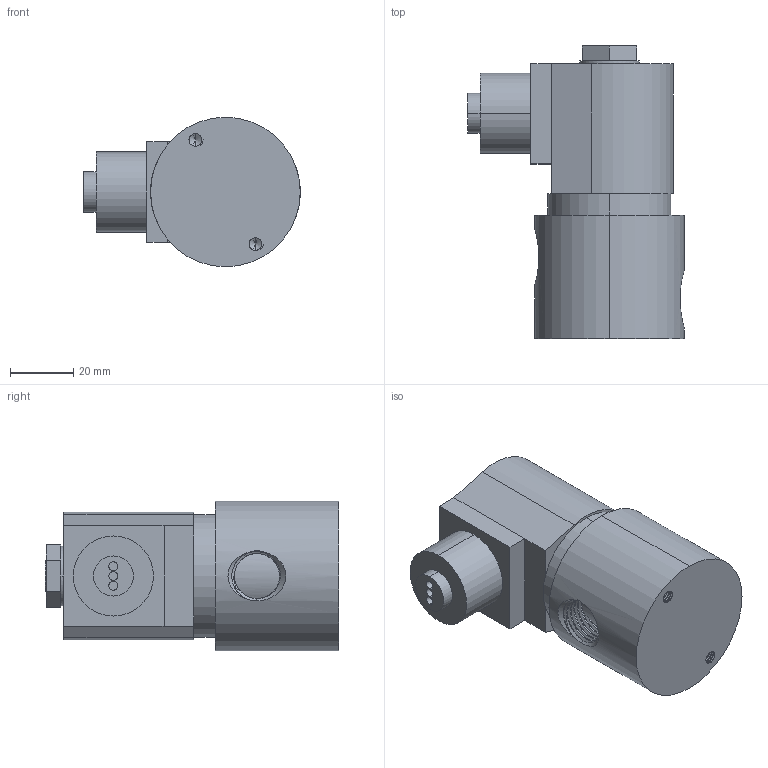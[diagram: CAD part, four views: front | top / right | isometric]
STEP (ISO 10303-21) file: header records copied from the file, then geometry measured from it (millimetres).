
FILE_DESCRIPTION (( 'STEP AP203' ), '1' );
FILE_NAME ('S401G_C.STEP', '2021-07-12T13:37:15', ( '' ), ( '' ), 'SwSTEP 2.0', 'SolidWorks 2020', '' );
FILE_SCHEMA (( 'CONFIG_CONTROL_DESIGN' ));
Length unit declared in the file: inch
Products named in the file (1): S401G_C
Bounding box: 68.63 x 92.99 x 47.45 mm (x, y, z)
Volume: 144358.6 mm3; surface area: 21356.1 mm2
Topology: 1 solids, 1 shells, 201 faces, 533 edges, 344 vertices
Faces by surface type: cylinder 111, plane 48, bspline 29, cone 13
Entity records: 18774 total; most frequent: CARTESIAN_POINT 14497, ORIENTED_EDGE 1058, DIRECTION 685, EDGE_CURVE 529, VERTEX_POINT 344, AXIS2_PLACEMENT_3D 253, EDGE_LOOP 215, FACE_OUTER_BOUND 201
